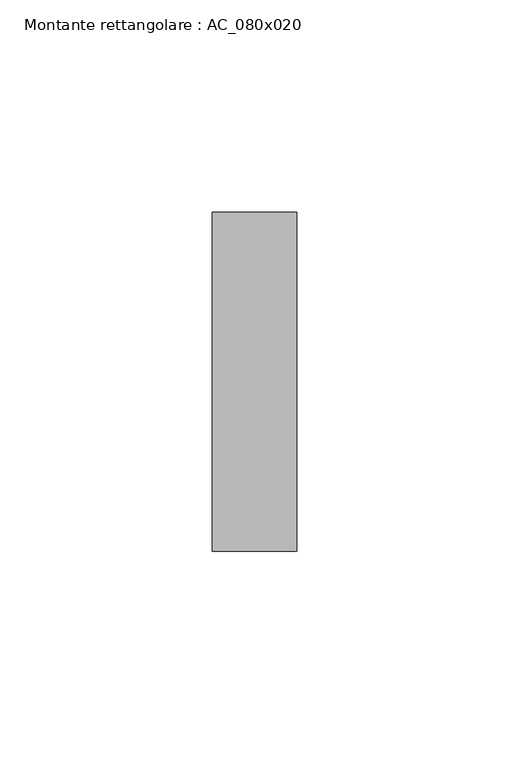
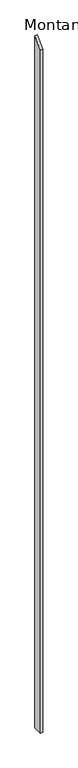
"""IFC4 building model written with IfcOpenShell, lengths in millimetres: member geometry, Montante rettangolare : AC_080x020."""

from ifc_helpers import new_model, si_unit, frame, origin, place, context, project, spatial, polyline, outline, extrude, source, transform, mapped, element, save


def montante_rettangolare_ac_080x020_e2273d97(model_context):
    return source(origin(), model_context, "Body", "SweptSolid", [
        extrude(outline(polyline([(-40.0, -40.0), (40.0, 40.0), (40.0, -6105.0), (-40.0, -6105.0), (-40.0, -40.0)])), frame((-20.0, 0.0, 0.0), z_axis=(1.0, 0.0, 0.0), x_axis=(0.0, 1.0, 0.0)), (0.0, 0.0, 1.0), 20.0),
    ])


if __name__ == "__main__":
    model = new_model("IFC4")
    model_context = context("Model", 3, world=origin())
    ifc_project = project(units=[si_unit("LENGTHUNIT", "METRE", prefix="MILLI")], contexts=[model_context])
    site = spatial("IfcSite", under=ifc_project)
    building = spatial("IfcBuilding", under=site)
    placement = place(None, origin())
    montante_rettangolare_ac_080x020_shape = montante_rettangolare_ac_080x020_e2273d97(model_context)
    element("IfcMember", 1, ObjectType="Montante rettangolare : AC_080x020", at=placement, inside=building, context=model_context, shape_type="MappedRepresentation", body=[
        mapped(montante_rettangolare_ac_080x020_shape, transform((0.0, 0.0, 0.0), x_axis=(1.0, 0.0, 0.0), y_axis=(0.0, 1.0, 0.0), z_axis=(0.0, 0.0, 1.0))),
    ])
    save(model, "model.ifc")
